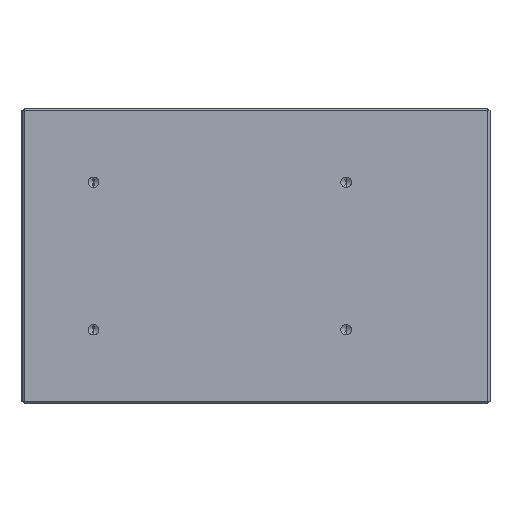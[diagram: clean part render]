
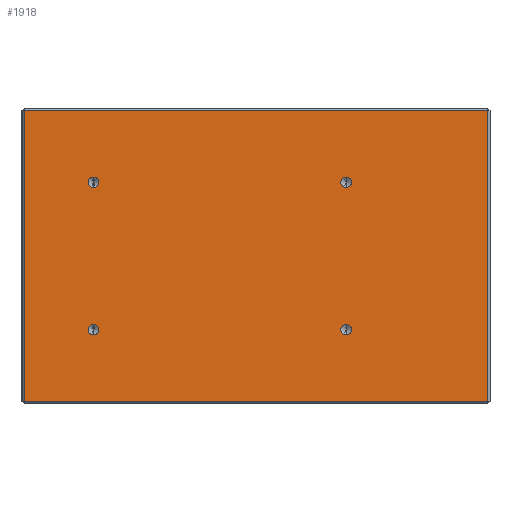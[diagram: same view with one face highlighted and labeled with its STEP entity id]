
A CAD part, front view. The second image highlights one B-rep face of the part: STEP entity #1918.
In plain terms, the highlighted planar face has unit normal (0, -1, 0).
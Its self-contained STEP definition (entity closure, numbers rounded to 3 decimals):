
#15 = CARTESIAN_POINT ( 'NONE',  ( -38.6, -65., 53.75 ) ) ;
#19 = CIRCLE ( 'NONE', #2071, 1.25 ) ;
#54 = PLANE ( 'NONE',  #1990 ) ;
#157 = DIRECTION ( 'NONE',  ( 0., 0., -1. ) ) ;
#169 = EDGE_CURVE ( 'NONE', #1165, #1971, #1256, .T. ) ;
#196 = CARTESIAN_POINT ( 'NONE',  ( -38.6, -65., 16.25 ) ) ;
#198 = AXIS2_PLACEMENT_3D ( 'NONE', #999, #737, #476 ) ;
#201 = EDGE_CURVE ( 'NONE', #1490, #1300, #1648, .T. ) ;
#229 = AXIS2_PLACEMENT_3D ( 'NONE', #2317, #2061, #1801 ) ;
#297 = AXIS2_PLACEMENT_3D ( 'NONE', #2229, #1970, #1706 ) ;
#352 = VERTEX_POINT ( 'NONE', #1796 ) ;
#427 = DIRECTION ( 'NONE',  ( 0., -1., 0. ) ) ;
#465 = VECTOR ( 'NONE', #735, 1000. ) ;
#476 = DIRECTION ( 'NONE',  ( 0., 0., -1. ) ) ;
#497 = VERTEX_POINT ( 'NONE', #984 ) ;
#501 = ORIENTED_EDGE ( 'NONE', *, *, #1347, .F. ) ;
#514 = DIRECTION ( 'NONE',  ( 1., 0., 0. ) ) ;
#553 = EDGE_CURVE ( 'NONE', #352, #1165, #2366, .T. ) ;
#559 = CARTESIAN_POINT ( 'NONE',  ( 21.4, -65., 51.25 ) ) ;
#566 = AXIS2_PLACEMENT_3D ( 'NONE', #2171, #1904, #1644 ) ;
#581 = EDGE_CURVE ( 'NONE', #1229, #2302, #19, .T. ) ;
#671 = CARTESIAN_POINT ( 'NONE',  ( -55.1, -65., 69.5 ) ) ;
#735 = DIRECTION ( 'NONE',  ( -1., 0., 0. ) ) ;
#737 = DIRECTION ( 'NONE',  ( 0., -1., 0. ) ) ;
#743 = DIRECTION ( 'NONE',  ( 0., 0., -1. ) ) ;
#774 = EDGE_LOOP ( 'NONE', ( #1003, #1161, #1931, #2173 ) ) ;
#775 = CARTESIAN_POINT ( 'NONE',  ( -55.6, -65., 0.5 ) ) ;
#791 = CARTESIAN_POINT ( 'NONE',  ( -38.6, -65., 18.75 ) ) ;
#836 = VECTOR ( 'NONE', #987, 1000. ) ;
#839 = CARTESIAN_POINT ( 'NONE',  ( 21.4, -65., 53.75 ) ) ;
#921 = EDGE_LOOP ( 'NONE', ( #1374, #501 ) ) ;
#948 = CARTESIAN_POINT ( 'NONE',  ( -38.6, -65., 52.5 ) ) ;
#984 = CARTESIAN_POINT ( 'NONE',  ( 21.4, -65., 18.75 ) ) ;
#987 = DIRECTION ( 'NONE',  ( 0., 0., -1. ) ) ;
#989 = EDGE_CURVE ( 'NONE', #1300, #1490, #2040, .T. ) ;
#997 = CARTESIAN_POINT ( 'NONE',  ( -55.6, -65., 69.5 ) ) ;
#999 = CARTESIAN_POINT ( 'NONE',  ( 21.4, -65., 17.5 ) ) ;
#1003 = ORIENTED_EDGE ( 'NONE', *, *, #169, .T. ) ;
#1008 = DIRECTION ( 'NONE',  ( 0., -1., 0. ) ) ;
#1011 = DIRECTION ( 'NONE',  ( 0., 0., -1. ) ) ;
#1046 = LINE ( 'NONE', #775, #2299 ) ;
#1161 = ORIENTED_EDGE ( 'NONE', *, *, #1530, .T. ) ;
#1165 = VERTEX_POINT ( 'NONE', #1880 ) ;
#1172 = VERTEX_POINT ( 'NONE', #839 ) ;
#1195 = EDGE_CURVE ( 'NONE', #2254, #352, #1046, .T. ) ;
#1215 = CIRCLE ( 'NONE', #229, 1.25 ) ;
#1229 = VERTEX_POINT ( 'NONE', #196 ) ;
#1241 = ORIENTED_EDGE ( 'NONE', *, *, #1959, .F. ) ;
#1249 = CARTESIAN_POINT ( 'NONE',  ( -55.1, -65., 70. ) ) ;
#1256 = LINE ( 'NONE', #997, #465 ) ;
#1262 = DIRECTION ( 'NONE',  ( 0., -1., 0. ) ) ;
#1274 = ORIENTED_EDGE ( 'NONE', *, *, #1725, .F. ) ;
#1292 = CIRCLE ( 'NONE', #566, 1.25 ) ;
#1300 = VERTEX_POINT ( 'NONE', #15 ) ;
#1335 = VERTEX_POINT ( 'NONE', #559 ) ;
#1347 = EDGE_CURVE ( 'NONE', #1172, #1335, #1215, .T. ) ;
#1368 = ORIENTED_EDGE ( 'NONE', *, *, #201, .F. ) ;
#1374 = ORIENTED_EDGE ( 'NONE', *, *, #1974, .F. ) ;
#1419 = ORIENTED_EDGE ( 'NONE', *, *, #581, .F. ) ;
#1440 = CIRCLE ( 'NONE', #297, 1.25 ) ;
#1460 = ORIENTED_EDGE ( 'NONE', *, *, #2321, .F. ) ;
#1490 = VERTEX_POINT ( 'NONE', #1887 ) ;
#1501 = LINE ( 'NONE', #1249, #836 ) ;
#1521 = CARTESIAN_POINT ( 'NONE',  ( -38.6, -65., 17.5 ) ) ;
#1527 = VECTOR ( 'NONE', #1845, 1000. ) ;
#1530 = EDGE_CURVE ( 'NONE', #1971, #2254, #1501, .T. ) ;
#1608 = CIRCLE ( 'NONE', #2178, 1.25 ) ;
#1620 = AXIS2_PLACEMENT_3D ( 'NONE', #948, #427, #157 ) ;
#1644 = DIRECTION ( 'NONE',  ( 0., 0., -1. ) ) ;
#1648 = CIRCLE ( 'NONE', #2466, 1.25 ) ;
#1651 = DIRECTION ( 'NONE',  ( 0., 0., -1. ) ) ;
#1706 = DIRECTION ( 'NONE',  ( 0., 0., -1. ) ) ;
#1725 = EDGE_CURVE ( 'NONE', #497, #1995, #1861, .T. ) ;
#1759 = CARTESIAN_POINT ( 'NONE',  ( -55.1, -65., 0.5 ) ) ;
#1795 = FACE_BOUND ( 'NONE', #2343, .T. ) ;
#1796 = CARTESIAN_POINT ( 'NONE',  ( 55.1, -65., 0.5 ) ) ;
#1801 = DIRECTION ( 'NONE',  ( 0., 0., -1. ) ) ;
#1825 = DIRECTION ( 'NONE',  ( 0., 0., 1. ) ) ;
#1845 = DIRECTION ( 'NONE',  ( 0., 0., 1. ) ) ;
#1861 = CIRCLE ( 'NONE', #198, 1.25 ) ;
#1880 = CARTESIAN_POINT ( 'NONE',  ( 55.1, -65., 69.5 ) ) ;
#1887 = CARTESIAN_POINT ( 'NONE',  ( -38.6, -65., 51.25 ) ) ;
#1904 = DIRECTION ( 'NONE',  ( 0., -1., 0. ) ) ;
#1913 = DIRECTION ( 'NONE',  ( 0., -1., 0. ) ) ;
#1918 = ADVANCED_FACE ( 'NONE', ( #1795, #1923, #2056, #2194, #2313 ), #54, .F. ) ;
#1923 = FACE_BOUND ( 'NONE', #921, .T. ) ;
#1931 = ORIENTED_EDGE ( 'NONE', *, *, #1195, .T. ) ;
#1959 = EDGE_CURVE ( 'NONE', #1995, #497, #1440, .T. ) ;
#1970 = DIRECTION ( 'NONE',  ( 0., -1., 0. ) ) ;
#1971 = VERTEX_POINT ( 'NONE', #671 ) ;
#1974 = EDGE_CURVE ( 'NONE', #1335, #1172, #1292, .T. ) ;
#1990 = AXIS2_PLACEMENT_3D ( 'NONE', #2346, #2086, #1825 ) ;
#1995 = VERTEX_POINT ( 'NONE', #2106 ) ;
#2027 = EDGE_LOOP ( 'NONE', ( #1368, #2476 ) ) ;
#2040 = CIRCLE ( 'NONE', #1620, 1.25 ) ;
#2056 = FACE_BOUND ( 'NONE', #2231, .T. ) ;
#2061 = DIRECTION ( 'NONE',  ( 0., -1., 0. ) ) ;
#2071 = AXIS2_PLACEMENT_3D ( 'NONE', #2305, #1008, #743 ) ;
#2086 = DIRECTION ( 'NONE',  ( 0., 1., 0. ) ) ;
#2106 = CARTESIAN_POINT ( 'NONE',  ( 21.4, -65., 16.25 ) ) ;
#2109 = CARTESIAN_POINT ( 'NONE',  ( 55.1, -65., 70. ) ) ;
#2171 = CARTESIAN_POINT ( 'NONE',  ( 21.4, -65., 52.5 ) ) ;
#2173 = ORIENTED_EDGE ( 'NONE', *, *, #553, .T. ) ;
#2178 = AXIS2_PLACEMENT_3D ( 'NONE', #1521, #1262, #1011 ) ;
#2181 = CARTESIAN_POINT ( 'NONE',  ( -38.6, -65., 52.5 ) ) ;
#2194 = FACE_BOUND ( 'NONE', #2027, .T. ) ;
#2229 = CARTESIAN_POINT ( 'NONE',  ( 21.4, -65., 17.5 ) ) ;
#2231 = EDGE_LOOP ( 'NONE', ( #1419, #1460 ) ) ;
#2254 = VERTEX_POINT ( 'NONE', #1759 ) ;
#2299 = VECTOR ( 'NONE', #514, 1000. ) ;
#2302 = VERTEX_POINT ( 'NONE', #791 ) ;
#2305 = CARTESIAN_POINT ( 'NONE',  ( -38.6, -65., 17.5 ) ) ;
#2313 = FACE_OUTER_BOUND ( 'NONE', #774, .T. ) ;
#2317 = CARTESIAN_POINT ( 'NONE',  ( 21.4, -65., 52.5 ) ) ;
#2321 = EDGE_CURVE ( 'NONE', #2302, #1229, #1608, .T. ) ;
#2343 = EDGE_LOOP ( 'NONE', ( #1241, #1274 ) ) ;
#2346 = CARTESIAN_POINT ( 'NONE',  ( -55.6, -65., 70. ) ) ;
#2366 = LINE ( 'NONE', #2109, #1527 ) ;
#2466 = AXIS2_PLACEMENT_3D ( 'NONE', #2181, #1913, #1651 ) ;
#2476 = ORIENTED_EDGE ( 'NONE', *, *, #989, .F. ) ;
